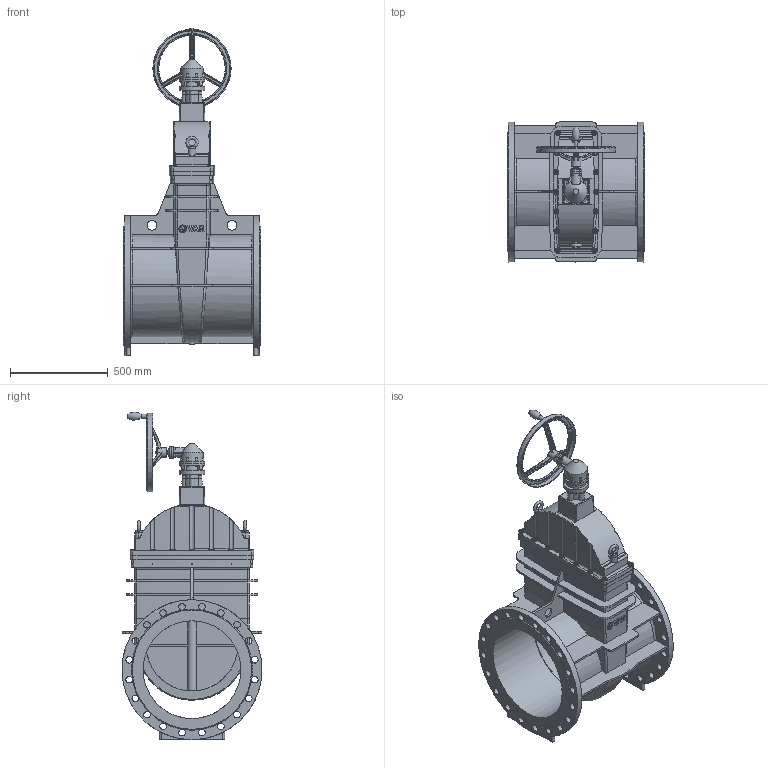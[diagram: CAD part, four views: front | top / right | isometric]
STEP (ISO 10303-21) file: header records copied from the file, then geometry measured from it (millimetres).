
FILE_DESCRIPTION(('STEP AP242'), '1');
FILE_NAME('青溻桄赅', '', ('UNSPECIFIED'), ('UNSPECIFIED'), 'C3D Converter', 'C3D Toolkit', '');
FILE_SCHEMA(('AP242_MANAGED_MODEL_BASED_3D_ENGINEERING_MIM_LF { 1 0 10303 442 1 1 4 }'));
Length unit declared in the file: millimetre
Assembly tree (43 placements, depth 3):
  (unnamed)
    (unnamed)
    (unnamed)
      (unnamed)  x2
    (unnamed)
    (unnamed)  x2
    (unnamed)
    (unnamed)
    (unnamed)
    (unnamed)
    (unnamed)
    (unnamed)  x14
    (unnamed)  x4
    (unnamed)  x12
    (unnamed)
Bounding box: 700 x 715 x 1672.32 mm (x, y, z)
Volume: 58043227.4 mm3; surface area: 8150274.2 mm2
Topology: 49 solids, 49 shells, 1947 faces, 4824 edges, 3038 vertices
Faces by surface type: plane 932, cylinder 504, cone 180, extrusion 159, bspline 95, torus 77
Full cylindrical faces by diameter (mm): 3 x12, 4 x36, 6 x7, 7 x12, 8 x12, 10 x14, 12 x64, 13 x4, 16 x4, 18 x32, 20 x5, 29 x10, 34 x40, 38.88 x1, 40 x1, 50 x8, 60 x2, 101.639 x2, 117.097 x1, 132.554 x3, 340 x1, 350 x1, 390 x1, 400 x1, 468.5 x2, 500 x4, 537.8 x4, 563 x1, 715 x2
Entity records: 78291 total; most frequent: CARTESIAN_POINT 43517, ORIENTED_EDGE 6344, DIRECTION 5856, EDGE_CURVE 3172, AXIS2_PLACEMENT_3D 2241, VERTEX_POINT 2204, EDGE_LOOP 1825, FACE_BOUND 1413
